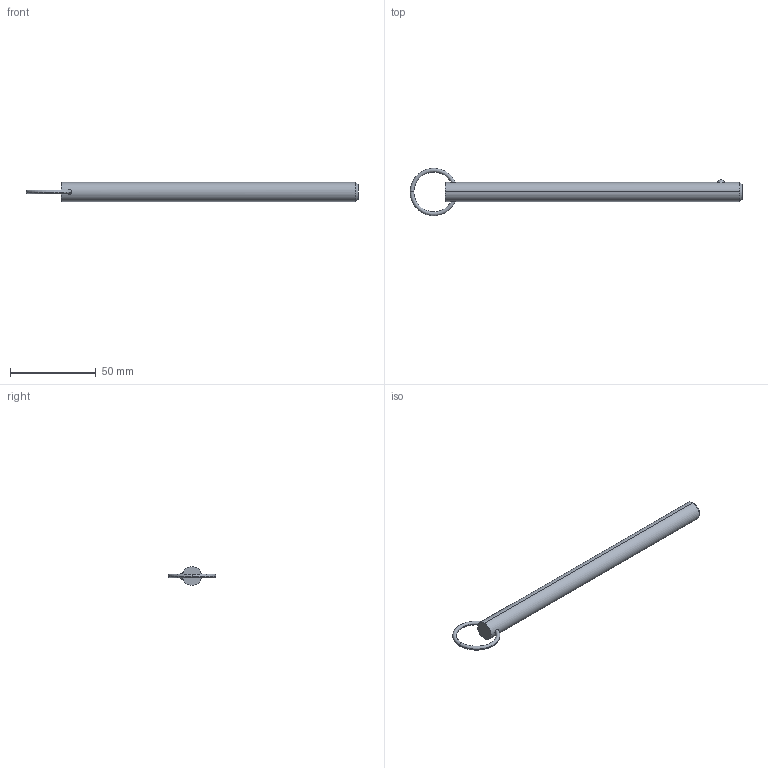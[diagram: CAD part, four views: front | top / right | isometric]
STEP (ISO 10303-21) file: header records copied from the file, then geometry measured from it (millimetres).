
FILE_DESCRIPTION (( 'STEP AP203' ), '1' );
FILE_NAME ('33012.W4360.step', '2024-11-01T14:12:25', ( '' ), ( '' ), 'SwSTEP 2.0', 'SolidWorks 2019', '' );
FILE_SCHEMA (( 'CONFIG_CONTROL_DESIGN' ));
Length unit declared in the file: millimetre
Products named in the file (3): Part2_33012.W4360; Part1_33012.W4360; 33012.W4360
Assembly tree (2 placements, depth 2):
  33012.W4360
    Part1_33012.W4360
    Part2_33012.W4360
Bounding box: 193.43 x 27.62 x 11.11 mm (x, y, z)
Volume: 16994.6 mm3; surface area: 6852.8 mm2
Topology: 2 solids, 2 shells, 16 faces, 31 edges, 18 vertices
Faces by surface type: torus 8, sphere 2, cone 2, cylinder 2, plane 2
Entity records: 863 total; most frequent: CARTESIAN_POINT 220, DIRECTION 88, ORIENTED_EDGE 62, AXIS2_PLACEMENT_3D 42, EDGE_CURVE 31, PERSON_AND_ORGANIZATION 26, CIRCLE 21, COORDINATED_UNIVERSAL_TIME_OFFSET 19
